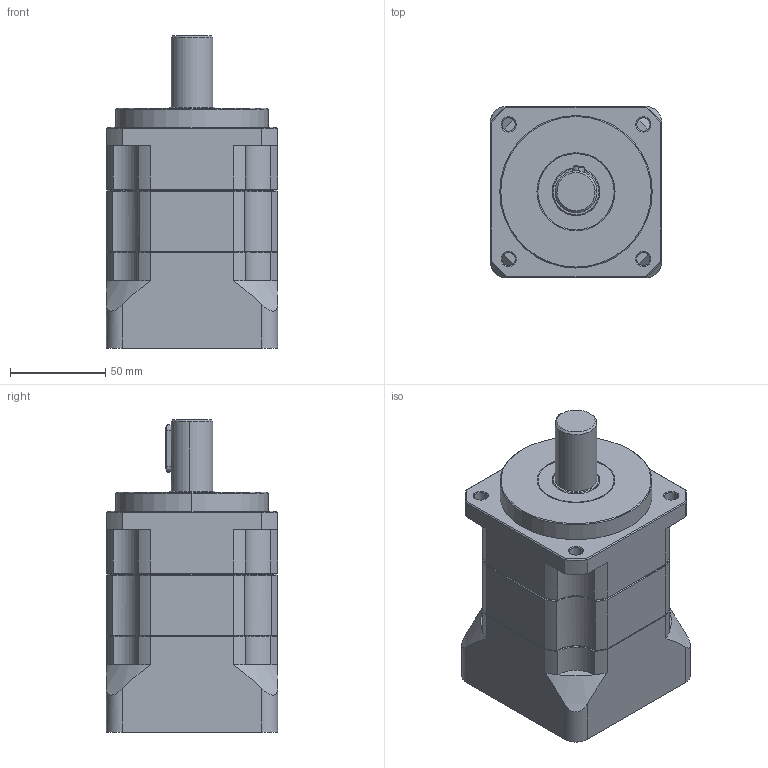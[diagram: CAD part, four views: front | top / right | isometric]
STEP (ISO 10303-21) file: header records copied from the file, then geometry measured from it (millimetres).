
FILE_DESCRIPTION (( 'STEP AP203' ), '1' );
FILE_NAME ('JHP90-L2.STEP', '2018-05-28T03:48:57', ( 'user' ), ( '' ), 'SwSTEP 2.0', 'SolidWorks 2014', '' );
FILE_SCHEMA (( 'CONFIG_CONTROL_DESIGN' ));
Length unit declared in the file: millimetre
Products named in the file (1): JHP90-L2
Bounding box: 90 x 90 x 163.9 mm (x, y, z)
Volume: 543115.9 mm3; surface area: 116666.1 mm2
Topology: 5 solids, 5 shells, 320 faces, 732 edges, 444 vertices
Faces by surface type: cylinder 131, cone 113, plane 76
Entity records: 9479 total; most frequent: CARTESIAN_POINT 1996, DIRECTION 1674, ORIENTED_EDGE 1464, EDGE_CURVE 732, AXIS2_PLACEMENT_3D 698, VERTEX_POINT 444, CIRCLE 377, EDGE_LOOP 366
